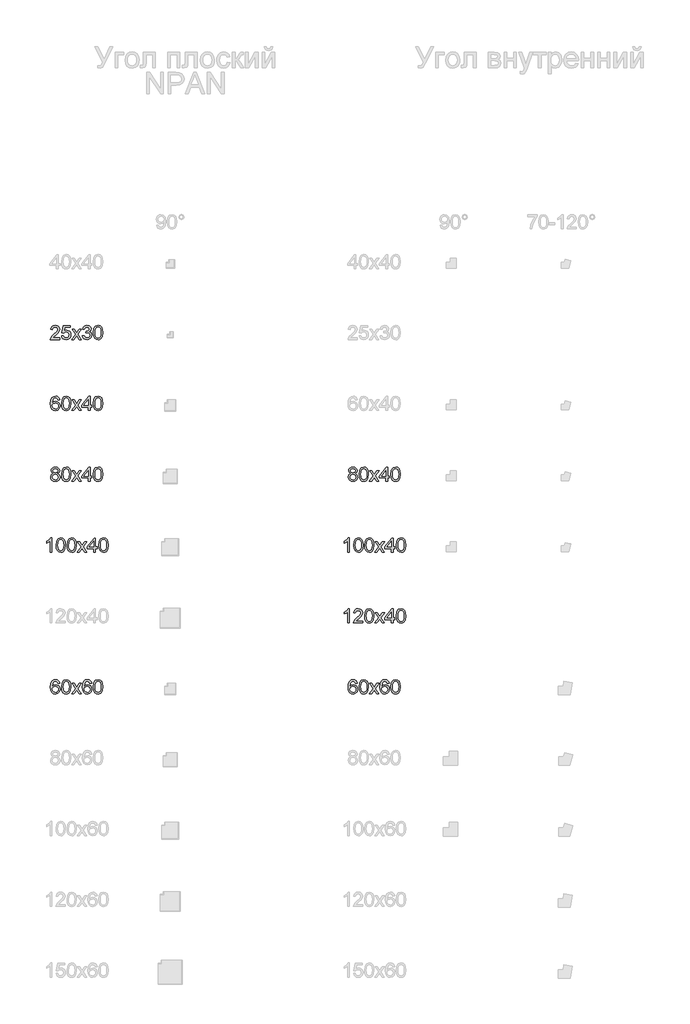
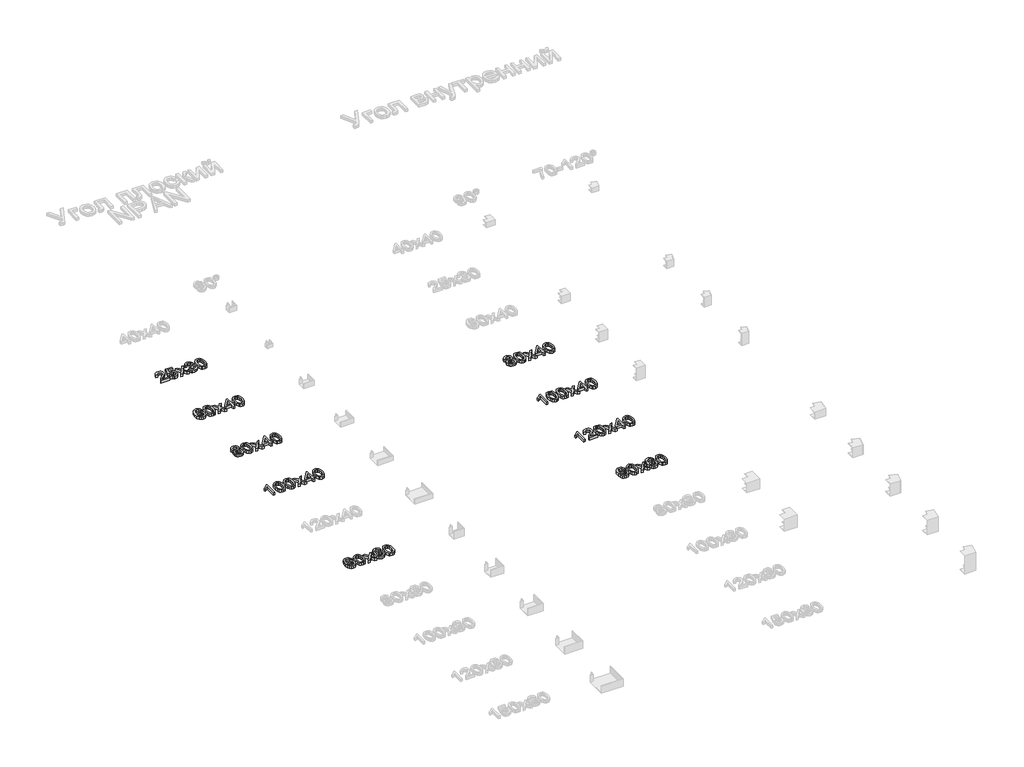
# One storey, part 20 of 28: 9 proxies.
"""IFC4 building model written with IfcOpenShell, lengths in millimetres."""

import ifcopenshell
import ifcopenshell.guid

model = None  # the IFC model being written
_history = None  # IfcOwnerHistory: only IFC2X3 demands one
_inside = {}  # id of a spatial element -> (the spatial element, [elements in it])
_under = {}  # id of a project, library or spatial element -> (it, [spatial elements below it])
_declared = {}  # id of a project -> (the project, [libraries it declares])
_typed = {}  # id of a type object -> (the type object, [elements of that type])
_made_of = {}  # id of a material, layer set ... -> (it, [elements and type objects made of it])


def new_model(schema):
    """Start an empty IFC model of exactly this schema.

    Asked for "IFC4X3", IfcOpenShell would pick the latest addendum, in which some entities
    have other attributes; the version numbers below select the first issue.
    IFC2X3 requires an IfcOwnerHistory on every rooted entity: one is made here for all.
    """
    global model, _history
    if schema == "IFC4X3":
        model = ifcopenshell.file(schema_version=(4, 3, 0, 0))
    else:
        model = ifcopenshell.file(schema=schema)
    _inside.clear()
    _under.clear()
    _declared.clear()
    _typed.clear()
    _made_of.clear()
    _history = None
    if model.schema == "IFC2X3":
        org = make("IfcOrganization", Name="unknown")
        user = make(
            "IfcPersonAndOrganization",
            ThePerson=make("IfcPerson", FamilyName="unknown"),
            TheOrganization=org,
        )
        app = make(
            "IfcApplication",
            ApplicationDeveloper=org,
            Version="unknown",
            ApplicationFullName="unknown",
            ApplicationIdentifier="unknown",
        )
        _history = make(
            "IfcOwnerHistory",
            OwningUser=user,
            OwningApplication=app,
            ChangeAction="ADDED",
            CreationDate=0,
        )
    return model


def make(cls, **values):
    """One entity of the class cls with the attributes given. An attribute that is None is left unset."""
    return model.create_entity(
        cls, **{name: value for name, value in values.items() if value is not None}
    )


def rooted(cls, **values):
    """An entity with a GlobalId (a new one), such as an element, a storey or a relation."""
    return make(cls, GlobalId=ifcopenshell.guid.new(), OwnerHistory=_history, **values)


def si_unit(unit_type, name, prefix=None):
    """IfcSIUnit, for example si_unit("LENGTHUNIT", "METRE", prefix="MILLI")."""
    return make("IfcSIUnit", UnitType=unit_type, Prefix=prefix, Name=name)


def assignment(units):
    """IfcUnitAssignment: the units of a project."""
    return None if units is None else make("IfcUnitAssignment", Units=units)


def point(xyz):
    """IfcCartesianPoint."""
    return None if xyz is None else make("IfcCartesianPoint", Coordinates=xyz)


def direction(xyz):
    """IfcDirection."""
    return None if xyz is None else make("IfcDirection", DirectionRatios=xyz)


def frame(location, z_axis=None, x_axis=None):
    """IfcAxis2Placement3D, a coordinate frame: its origin and axes. An axis left out is left unset."""
    return make(
        "IfcAxis2Placement3D",
        Location=point(location),
        Axis=direction(z_axis),
        RefDirection=direction(x_axis),
    )


def origin():
    """The frame at (0, 0, 0) with its axes left unset."""
    return frame((0.0, 0.0, 0.0))


def origin_with_axes():
    """The frame at (0, 0, 0) with the z axis (0, 0, 1) and the x axis (1, 0, 0) written out."""
    return frame((0.0, 0.0, 0.0), z_axis=(0.0, 0.0, 1.0), x_axis=(1.0, 0.0, 0.0))


def place(relative_to, where):
    """IfcLocalPlacement: puts the frame where relative to a parent placement (None: the world)."""
    return make(
        "IfcLocalPlacement", PlacementRelTo=relative_to, RelativePlacement=where
    )


def context(
    kind, dimensions, precision=None, world=None, true_north=None, identifier=None
):
    """IfcGeometricRepresentationContext, for example the 3D "Model" context."""
    return make(
        "IfcGeometricRepresentationContext",
        ContextIdentifier=identifier,
        ContextType=kind,
        CoordinateSpaceDimension=dimensions,
        Precision=precision,
        WorldCoordinateSystem=world,
        TrueNorth=true_north,
    )


def project(units=None, contexts=None):
    """IfcProject with its units and contexts."""
    return rooted(
        "IfcProject",
        Name="project",
        RepresentationContexts=contexts,
        UnitsInContext=assignment(units),
    )


def spatial(cls, under=None, at=None, **own):
    """A site, building, storey or space (cls), placed at a placement, below another one or the project."""
    s = rooted(cls, ObjectPlacement=at, **own)
    if under is not None:
        _under.setdefault(under.id(), (under, []))[1].append(s)
    return s


def polyline(points):
    """IfcPolyline through the points."""
    return make("IfcPolyline", Points=[point(p) for p in points])


def outline(outer, holes=None, kind="AREA"):
    """IfcArbitraryClosedProfileDef: a profile drawn as a closed curve; with holes, ...WithVoids."""
    if holes is None:
        return make("IfcArbitraryClosedProfileDef", ProfileType=kind, OuterCurve=outer)
    return make(
        "IfcArbitraryProfileDefWithVoids",
        ProfileType=kind,
        OuterCurve=outer,
        InnerCurves=holes,
    )


def extrude(swept, where, along, depth):
    """IfcExtrudedAreaSolid: the profile swept, set in the frame where, extruded along a direction by depth."""
    return make(
        "IfcExtrudedAreaSolid",
        SweptArea=swept,
        Position=where,
        ExtrudedDirection=direction(along),
        Depth=depth,
    )


def shape(context_of_items, identifier, shape_type, items):
    """IfcShapeRepresentation: the items that make up one representation, for example the "Body"."""
    return make(
        "IfcShapeRepresentation",
        ContextOfItems=context_of_items,
        RepresentationIdentifier=identifier,
        RepresentationType=shape_type,
        Items=items,
    )


def made_of(thing, what):
    """Note that an element or type object is made of a material, layer set ...; save() writes the relation."""
    if what is not None:
        _made_of.setdefault(what.id(), (what, []))[1].append(thing)
    return thing


def element(
    cls,
    number,
    at=None,
    inside=None,
    cuts=None,
    type_object=None,
    material=None,
    context=None,
    identifier="Body",
    shape_type=None,
    held_by="IfcProductDefinitionShape",
    body=None,
    shapes=None,
    **own,
):
    """One element of the class cls, such as IfcWall. Its Tag is "e" and its number.

    at: its placement. inside: the storey or other place that contains it. cuts: it is an
    opening in that element (IfcRelVoidsElement). A single representation is given by context,
    identifier, shape_type and body (its items); several are given by shapes. held_by: the class
    of the entity that holds the representations. save() writes the other relations.
    """
    e = rooted(cls, Tag="e%d" % number, ObjectPlacement=at, **own)
    if body is not None:
        shapes = [shape(context, identifier, shape_type, body)]
    if shapes is not None:
        e.Representation = make(held_by, Representations=shapes)
    if inside is not None:
        _inside.setdefault(inside.id(), (inside, []))[1].append(e)
    if cuts is not None:
        rooted(
            "IfcRelVoidsElement", RelatingBuildingElement=cuts, RelatedOpeningElement=e
        )
    if type_object is not None:
        _typed.setdefault(type_object.id(), (type_object, []))[1].append(e)
    return made_of(e, material)


def aggregate(whole, parts):
    """IfcRelAggregates: a whole, such as a stair, and the parts it consists of."""
    return rooted("IfcRelAggregates", RelatingObject=whole, RelatedObjects=parts)


def save(model, path):
    """Write the relations noted so far, then the file.

    IfcRelAggregates (storeys below a building ...), IfcRelContainedInSpatialStructure (elements
    in a storey), IfcRelDefinesByType, IfcRelAssociatesMaterial and IfcRelDeclares: one each for
    every whole, place, type object, material and project.
    """
    for whole, parts in _under.values():
        aggregate(whole, parts)
    for where, things in _inside.values():
        rooted(
            "IfcRelContainedInSpatialStructure",
            RelatedElements=things,
            RelatingStructure=where,
        )
    for kind, things in _typed.values():
        rooted("IfcRelDefinesByType", RelatedObjects=things, RelatingType=kind)
    for what, things in _made_of.values():
        rooted("IfcRelAssociatesMaterial", RelatedObjects=things, RelatingMaterial=what)
    for by, libraries in _declared.values():
        rooted("IfcRelDeclares", RelatingContext=by, RelatedDefinitions=libraries)
    model.write(path)


model = new_model("IFC4")

# Units and contexts
model_context = context("Model", 3, world=origin())
ifc_project = project(units=[si_unit("LENGTHUNIT", "METRE", prefix="MILLI")], contexts=[model_context])

# Site, building, storey
site = spatial("IfcSite", under=ifc_project)
building = spatial("IfcBuilding", under=site)
storey = spatial("IfcBuildingStorey", under=building, Name="Этаж 01", Elevation=0.0)

# Proxies
placement = place(None, origin())
element("IfcBuildingElementProxy", 1, Name="100 мм Arial", ObjectType="100 мм Arial", at=placement, inside=storey, context=model_context, shape_type="SweptSolid", body=[
    extrude(outline(polyline([(13023.2543603, 2549.221783), (13023.2543603, 2536.6647442), (12957.3299068, 2536.6647442), (12958.6788074, 2545.3222338), (12966.3062275, 2558.6518248), (12982.0270514, 2573.2076891), (13003.7075636, 2594.1279118), (13009.1276917, 2608.3526823), (13004.014132, 2619.8673888), (12990.6600155, 2624.5640156), (12976.7418134, 2619.9777534), (12971.4565754, 2607.2980873), (12958.8995366, 2608.8677171), (12961.9437601, 2621.0139543), (12968.5257822, 2629.8860418), (12978.3022462, 2635.3123012), (12990.9297957, 2637.1210543), (13003.6493157, 2635.1099661), (13013.4073856, 2629.0767014), (13019.6153943, 2620.0635925), (13021.6847305, 2609.1129718), (13019.452913, 2597.2058579), (13012.0339595, 2584.8940738), (12994.0445299, 2567.6894591), (12979.5990302, 2555.610667), (12973.9336475, 2549.221783), (13023.2543603, 2549.221783)])), origin_with_axes(), (0.0, 0.0, 1.0), 20.0),
    extrude(outline(polyline([(13035.8113991, 2563.3484516), (13048.3684379, 2564.9180814), (13054.6960082, 2551.9808979), (13067.8171327, 2547.6521531), (13076.8179788, 2549.1574036), (13083.5624821, 2553.6731551), (13087.7747309, 2560.6782414), (13089.1788139, 2569.6514964), (13083.9181013, 2584.56298), (13077.3115538, 2588.6648642), (13068.0133364, 2590.032159), (13056.9891393, 2587.8493925), (13049.9380677, 2582.1840097), (13037.3810289, 2583.7536396), (13048.3684379, 2635.5514245), (13097.0269631, 2635.5514245), (13097.0269631, 2622.9943857), (13058.5219809, 2622.9943857), (13053.1509038, 2595.3296597), (13062.1210931, 2600.7743132), (13071.5204781, 2602.5891977), (13083.2528481, 2600.3389862), (13092.9925239, 2593.5883516), (13099.5500204, 2583.2999185), (13101.7358526, 2570.4363114), (13099.767684, 2557.8792726), (13093.8631779, 2547.1371183), (13082.5569379, 2538.1056153), (13067.7680817, 2535.0951144), (13055.4348378, 2537.0295605), (13045.6093229, 2542.832899), (13038.8740167, 2551.8306794), (13035.8113991, 2563.3484516)])), origin_with_axes(), (0.0, 0.0, 1.0), 20.0),
    extrude(outline(polyline([(13108.014372, 2536.6647442), (13134.8452322, 2573.7472493), (13109.5840019, 2610.437347), (13124.6916891, 2610.437347), (13136.8808459, 2592.7790112), (13142.5707541, 2584.4403526), (13147.5003728, 2591.2584323), (13161.3817868, 2610.437347), (13176.489474, 2610.437347), (13149.9529195, 2573.7472493), (13175.5084554, 2536.6647442), (13160.4007681, 2536.6647442), (13145.0233007, 2558.9583931), (13142.2028721, 2563.0296205), (13123.1220593, 2536.6647442), (13108.014372, 2536.6647442)])), origin_with_axes(), (0.0, 0.0, 1.0), 20.0),
    extrude(outline(polyline([(13183.3566046, 2563.3484516), (13195.9136434, 2564.9180814), (13202.8420876, 2551.6988551), (13215.8037966, 2547.6521531), (13224.4122353, 2549.0439733), (13231.0586367, 2553.219434), (13236.7240194, 2567.0027461), (13231.1076876, 2579.9889805), (13216.8338662, 2585.1270657), (13208.0292238, 2583.7536396), (13209.4271753, 2596.3106784), (13211.4382636, 2596.1635256), (13225.6875595, 2599.7687691), (13230.4332373, 2604.3427686), (13232.0151299, 2610.8542799), (13227.4288676, 2620.6767292), (13215.6075929, 2624.5640156), (13203.6391653, 2620.639941), (13197.4832732, 2608.8677171), (13184.9262345, 2610.437347), (13188.6234485, 2621.7129301), (13195.2024049, 2630.1312964), (13204.203251, 2635.3736149), (13215.1661345, 2637.1210543), (13230.3106099, 2633.6752263), (13240.9056114, 2624.2574473), (13244.5721686, 2611.5900439), (13241.0895524, 2600.0140238), (13230.7888565, 2591.6998907), (13244.4740668, 2583.1159775), (13249.2810582, 2566.7820169), (13246.8775625, 2554.5438092), (13239.6670754, 2544.3166897), (13228.7838997, 2537.4005082), (13215.3623382, 2535.0951144), (13203.2222324, 2537.063283), (13193.3384694, 2542.967789), (13186.4652075, 2551.999292), (13183.3566046, 2563.3484516)])), origin_with_axes(), (0.0, 0.0, 1.0), 20.0),
    extrude(outline(polyline([(13260.2684671, 2586.0835589), (13263.9595498, 2614.986821), (13274.9224332, 2631.6518754), (13293.2306938, 2637.1210543), (13307.8969227, 2633.8836928), (13318.0259403, 2624.5517528), (13323.9120522, 2609.6893202), (13326.1929206, 2586.0835589), (13322.5386261, 2557.3029241), (13311.6125309, 2540.6010815), (13303.3811712, 2536.4716062), (13293.2306938, 2535.0951144), (13280.1831458, 2537.4863473), (13270.2748573, 2544.6600462), (13262.7700646, 2561.650063), (13260.2684671, 2586.0835589)]), holes=[polyline([(13272.8255058, 2586.1080844), (13274.2970338, 2566.3558869), (13278.7116178, 2554.9239539), (13285.2844428, 2549.4701033), (13293.2306938, 2547.6521531), (13301.1769449, 2549.4762347), (13307.7497699, 2554.9484794), (13312.1643539, 2566.3865437), (13313.6358818, 2586.1080844), (13312.2134048, 2605.4157577), (13307.9459737, 2616.9365955), (13301.3854114, 2622.6571606), (13293.0835411, 2624.5640156), (13285.2231291, 2622.8840211), (13278.9078215, 2617.8440378), (13274.3460848, 2605.6058301), (13272.8255058, 2586.1080844)])]), origin_with_axes(), (0.0, 0.0, 1.0), 20.0),
])
element("IfcBuildingElementProxy", 2, Name="100 мм Arial", ObjectType="100 мм Arial", at=placement, inside=storey, context=model_context, shape_type="SweptSolid", body=[
    extrude(outline(polyline([(13023.2543603, 2110.437347), (13010.6973216, 2108.8677171), (13005.9393811, 2119.3400912), (12993.3578168, 2124.5640156), (12982.0270514, 2121.5228578), (12973.4554009, 2110.1062532), (12969.8869456, 2087.7267651), (12980.9601936, 2097.7454181), (12994.682192, 2101.0195679), (13006.2827376, 2098.7816191), (13016.0193477, 2092.0677727), (13022.6228296, 2081.8099964), (13024.8239902, 2068.9402579), (13020.6791864, 2051.6130159), (13009.2748445, 2039.3502828), (12992.8182566, 2035.0951144), (12978.5720263, 2037.915543), (12967.2259325, 2046.3768289), (12959.8039132, 2061.3128379), (12957.3299068, 2083.5574359), (12960.076759, 2108.5672802), (12968.3173157, 2125.6676616), (12979.5683734, 2134.2577062), (12994.1426318, 2137.1210543), (13005.1606975, 2135.3490894), (13013.983734, 2130.0331946), (13020.1641516, 2121.5903028), (13023.2543603, 2110.437347)]), holes=[polyline([(12969.8869456, 2069.1364616), (12972.7932133, 2058.2594173), (12980.5187352, 2050.3622172), (12991.8372379, 2047.6521531), (13000.1237799, 2049.0562361), (13006.6383569, 2053.2684849), (13010.8598028, 2059.8903608), (13012.2669514, 2068.523325), (13010.8781969, 2076.8098669), (13006.7119333, 2083.1282402), (13000.0869917, 2087.1289569), (12991.3222031, 2088.4625291), (12976.1286767, 2083.1282402), (12971.4473784, 2076.9631511), (12969.8869456, 2069.1364616)])]), origin_with_axes(), (0.0, 0.0, 1.0), 20.0),
    extrude(outline(polyline([(13035.8113991, 2086.0835589), (13039.5024818, 2114.986821), (13050.4653652, 2131.6518754), (13068.7736259, 2137.1210543), (13083.4398547, 2133.8836928), (13093.5688723, 2124.5517528), (13099.4549843, 2109.6893202), (13101.7358526, 2086.0835589), (13098.0815581, 2057.3029241), (13087.1554629, 2040.6010815), (13078.9241032, 2036.4716062), (13068.7736259, 2035.0951144), (13055.7260778, 2037.4863473), (13045.8177894, 2044.6600462), (13038.3129967, 2061.650063), (13035.8113991, 2086.0835589)]), holes=[polyline([(13048.3684379, 2086.1080844), (13049.8399658, 2066.3558869), (13054.2545498, 2054.9239539), (13060.8273748, 2049.4701033), (13068.7736259, 2047.6521531), (13076.719877, 2049.4762347), (13083.2927019, 2054.9484794), (13087.7072859, 2066.3865437), (13089.1788139, 2086.1080844), (13087.7563368, 2105.4157577), (13083.4889057, 2116.9365955), (13076.9283434, 2122.6571606), (13068.6264731, 2124.5640156), (13060.7660611, 2122.8840211), (13054.4507535, 2117.8440378), (13049.8890168, 2105.6058301), (13048.3684379, 2086.1080844)])]), origin_with_axes(), (0.0, 0.0, 1.0), 20.0),
    extrude(outline(polyline([(13108.014372, 2036.6647442), (13134.8452322, 2073.7472493), (13109.5840019, 2110.437347), (13124.6916891, 2110.437347), (13136.8808459, 2092.7790112), (13142.5707541, 2084.4403526), (13147.5003728, 2091.2584323), (13161.3817868, 2110.437347), (13176.489474, 2110.437347), (13149.9529195, 2073.7472493), (13175.5084554, 2036.6647442), (13160.4007681, 2036.6647442), (13145.0233007, 2058.9583931), (13142.2028721, 2063.0296205), (13123.1220593, 2036.6647442), (13108.014372, 2036.6647442)])), origin_with_axes(), (0.0, 0.0, 1.0), 20.0),
    extrude(outline(polyline([(13224.1669806, 2036.6647442), (13224.1669806, 2060.2091919), (13178.6477151, 2060.2091919), (13178.6477151, 2072.7662307), (13227.3062403, 2135.5514245), (13236.7240194, 2135.5514245), (13236.7240194, 2072.7662307), (13249.2810582, 2072.7662307), (13249.2810582, 2060.2091919), (13236.7240194, 2060.2091919), (13236.7240194, 2036.6647442), (13224.1669806, 2036.6647442)]), holes=[polyline([(13224.1669806, 2072.7662307), (13224.1669806, 2111.5655184), (13194.0987589, 2072.7662307), (13224.1669806, 2072.7662307)])]), origin_with_axes(), (0.0, 0.0, 1.0), 20.0),
    extrude(outline(polyline([(13260.2684671, 2086.0835589), (13263.9595498, 2114.986821), (13274.9224332, 2131.6518754), (13293.2306938, 2137.1210543), (13307.8969227, 2133.8836928), (13318.0259403, 2124.5517528), (13323.9120522, 2109.6893202), (13326.1929206, 2086.0835589), (13322.5386261, 2057.3029241), (13311.6125309, 2040.6010815), (13303.3811712, 2036.4716062), (13293.2306938, 2035.0951144), (13280.1831458, 2037.4863473), (13270.2748573, 2044.6600462), (13262.7700646, 2061.650063), (13260.2684671, 2086.0835589)]), holes=[polyline([(13272.8255058, 2086.1080844), (13274.2970338, 2066.3558869), (13278.7116178, 2054.9239539), (13285.2844428, 2049.4701033), (13293.2306938, 2047.6521531), (13301.1769449, 2049.4762347), (13307.7497699, 2054.9484794), (13312.1643539, 2066.3865437), (13313.6358818, 2086.1080844), (13312.2134048, 2105.4157577), (13307.9459737, 2116.9365955), (13301.3854114, 2122.6571606), (13293.0835411, 2124.5640156), (13285.2231291, 2122.8840211), (13278.9078215, 2117.8440378), (13274.3460848, 2105.6058301), (13272.8255058, 2086.1080844)])]), origin_with_axes(), (0.0, 0.0, 1.0), 20.0),
])
element("IfcBuildingElementProxy", 3, Name="100 мм Arial", ObjectType="100 мм Arial", at=placement, inside=storey, context=model_context, shape_type="SweptSolid", body=[
    extrude(outline(polyline([(12977.1955345, 1591.9941963), (12965.7544045, 1599.7932946), (12962.0387963, 1611.9334004), (12964.0621473, 1621.7497183), (12970.1322002, 1629.8615163), (12979.5683734, 1635.3061698), (12991.6900851, 1637.1210543), (13003.8853733, 1635.2632503), (13013.4441738, 1629.689838), (13019.6245913, 1621.4492814), (13021.6847305, 1611.5900439), (13018.0181733, 1599.7565064), (13006.8958743, 1591.9941963), (13020.2499907, 1582.1472215), (13024.8239902, 1565.8991001), (13022.5553845, 1553.8938843), (13015.7495676, 1543.9733332), (13005.2404053, 1537.3146691), (12991.8617634, 1535.0951144), (12978.4831215, 1537.3238661), (12967.9739592, 1544.0101214), (12961.1681423, 1554.0257087), (12958.8995366, 1566.2424566), (12963.6574771, 1582.8707228), (12977.1955345, 1591.9941963)]), holes=[polyline([(12974.5958351, 1611.5655184), (12979.0472072, 1601.7062809), (12992.0089162, 1597.8803082), (13004.7131078, 1601.6817555), (13009.1276917, 1611.0014327), (13004.565955, 1620.6522037), (12991.8617634, 1624.5640156), (12979.1207836, 1620.7380428), (12974.5958351, 1611.5655184)]), polyline([(12971.4565754, 1566.683915), (12973.5535028, 1557.2293477), (12980.9724563, 1550.1537507), (12991.9598653, 1547.6521531), (13000.5069903, 1548.9673313), (13006.9203997, 1552.9128657), (13012.2669514, 1566.2915075), (13006.7487215, 1579.9276668), (13000.1881592, 1583.9743688), (12991.5429323, 1585.3232694), (12983.115369, 1583.9927629), (12976.7663389, 1580.0012432), (12971.4565754, 1566.683915)])]), origin_with_axes(), (0.0, 0.0, 1.0), 20.0),
    extrude(outline(polyline([(13035.8113991, 1586.0835589), (13039.5024818, 1614.986821), (13050.4653652, 1631.6518754), (13068.7736259, 1637.1210543), (13083.4398547, 1633.8836928), (13093.5688723, 1624.5517528), (13099.4549843, 1609.6893202), (13101.7358526, 1586.0835589), (13098.0815581, 1557.3029241), (13087.1554629, 1540.6010815), (13078.9241032, 1536.4716062), (13068.7736259, 1535.0951144), (13055.7260778, 1537.4863473), (13045.8177894, 1544.6600462), (13038.3129967, 1561.650063), (13035.8113991, 1586.0835589)]), holes=[polyline([(13048.3684379, 1586.1080844), (13049.8399658, 1566.3558869), (13054.2545498, 1554.9239539), (13060.8273748, 1549.4701033), (13068.7736259, 1547.6521531), (13076.719877, 1549.4762347), (13083.2927019, 1554.9484794), (13087.7072859, 1566.3865437), (13089.1788139, 1586.1080844), (13087.7563368, 1605.4157577), (13083.4889057, 1616.9365955), (13076.9283434, 1622.6571606), (13068.6264731, 1624.5640156), (13060.7660611, 1622.8840211), (13054.4507535, 1617.8440378), (13049.8890168, 1605.6058301), (13048.3684379, 1586.1080844)])]), origin_with_axes(), (0.0, 0.0, 1.0), 20.0),
    extrude(outline(polyline([(13108.014372, 1536.6647442), (13134.8452322, 1573.7472493), (13109.5840019, 1610.437347), (13124.6916891, 1610.437347), (13136.8808459, 1592.7790112), (13142.5707541, 1584.4403526), (13147.5003728, 1591.2584323), (13161.3817868, 1610.437347), (13176.489474, 1610.437347), (13149.9529195, 1573.7472493), (13175.5084554, 1536.6647442), (13160.4007681, 1536.6647442), (13145.0233007, 1558.9583931), (13142.2028721, 1563.0296205), (13123.1220593, 1536.6647442), (13108.014372, 1536.6647442)])), origin_with_axes(), (0.0, 0.0, 1.0), 20.0),
    extrude(outline(polyline([(13224.1669806, 1536.6647442), (13224.1669806, 1560.2091919), (13178.6477151, 1560.2091919), (13178.6477151, 1572.7662307), (13227.3062403, 1635.5514245), (13236.7240194, 1635.5514245), (13236.7240194, 1572.7662307), (13249.2810582, 1572.7662307), (13249.2810582, 1560.2091919), (13236.7240194, 1560.2091919), (13236.7240194, 1536.6647442), (13224.1669806, 1536.6647442)]), holes=[polyline([(13224.1669806, 1572.7662307), (13224.1669806, 1611.5655184), (13194.0987589, 1572.7662307), (13224.1669806, 1572.7662307)])]), origin_with_axes(), (0.0, 0.0, 1.0), 20.0),
    extrude(outline(polyline([(13260.2684671, 1586.0835589), (13263.9595498, 1614.986821), (13274.9224332, 1631.6518754), (13293.2306938, 1637.1210543), (13307.8969227, 1633.8836928), (13318.0259403, 1624.5517528), (13323.9120522, 1609.6893202), (13326.1929206, 1586.0835589), (13322.5386261, 1557.3029241), (13311.6125309, 1540.6010815), (13303.3811712, 1536.4716062), (13293.2306938, 1535.0951144), (13280.1831458, 1537.4863473), (13270.2748573, 1544.6600462), (13262.7700646, 1561.650063), (13260.2684671, 1586.0835589)]), holes=[polyline([(13272.8255058, 1586.1080844), (13274.2970338, 1566.3558869), (13278.7116178, 1554.9239539), (13285.2844428, 1549.4701033), (13293.2306938, 1547.6521531), (13301.1769449, 1549.4762347), (13307.7497699, 1554.9484794), (13312.1643539, 1566.3865437), (13313.6358818, 1586.1080844), (13312.2134048, 1605.4157577), (13307.9459737, 1616.9365955), (13301.3854114, 1622.6571606), (13293.0835411, 1624.5640156), (13285.2231291, 1622.8840211), (13278.9078215, 1617.8440378), (13274.3460848, 1605.6058301), (13272.8255058, 1586.1080844)])]), origin_with_axes(), (0.0, 0.0, 1.0), 20.0),
])
element("IfcBuildingElementProxy", 4, Name="100 мм Arial", ObjectType="100 мм Arial", at=placement, inside=storey, context=model_context, shape_type="SweptSolid", body=[
    extrude(outline(polyline([(12967.5325008, 1036.6647442), (12954.975462, 1036.6647442), (12954.975462, 1114.9500328), (12943.0806108, 1106.4764842), (12929.8613845, 1100.1366511), (12929.8613845, 1112.0069768), (12948.267747, 1123.7546752), (12959.4390969, 1137.1210543), (12967.5325008, 1137.1210543), (12967.5325008, 1036.6647442)])), origin_with_axes(), (0.0, 0.0, 1.0), 20.0),
    extrude(outline(polyline([(12997.3554679, 1086.0835589), (13001.0465505, 1114.986821), (13012.009434, 1131.6518754), (13030.3176946, 1137.1210543), (13044.9839235, 1133.8836928), (13055.1129411, 1124.5517528), (13060.999053, 1109.6893202), (13063.2799214, 1086.0835589), (13059.6256269, 1057.3029241), (13048.6995317, 1040.6010815), (13040.468172, 1036.4716062), (13030.3176946, 1035.0951144), (13017.2701465, 1037.4863473), (13007.3618581, 1044.6600462), (12999.8570654, 1061.650063), (12997.3554679, 1086.0835589)]), holes=[polyline([(13009.9125066, 1086.1080844), (13011.3840346, 1066.3558869), (13015.7986186, 1054.9239539), (13022.3714435, 1049.4701033), (13030.3176946, 1047.6521531), (13038.2639457, 1049.4762347), (13044.8367707, 1054.9484794), (13049.2513546, 1066.3865437), (13050.7228826, 1086.1080844), (13049.3004056, 1105.4157577), (13045.0329744, 1116.9365955), (13038.4724122, 1122.6571606), (13030.1705418, 1124.5640156), (13022.3101299, 1122.8840211), (13015.9948223, 1117.8440378), (13011.4330855, 1105.6058301), (13009.9125066, 1086.1080844)])]), origin_with_axes(), (0.0, 0.0, 1.0), 20.0),
    extrude(outline(polyline([(13074.2673303, 1086.0835589), (13077.958413, 1114.986821), (13088.9212965, 1131.6518754), (13107.2295571, 1137.1210543), (13121.895786, 1133.8836928), (13132.0248036, 1124.5517528), (13137.9109155, 1109.6893202), (13140.1917839, 1086.0835589), (13136.5374894, 1057.3029241), (13125.6113941, 1040.6010815), (13117.3800345, 1036.4716062), (13107.2295571, 1035.0951144), (13094.182009, 1037.4863473), (13084.2737206, 1044.6600462), (13076.7689279, 1061.650063), (13074.2673303, 1086.0835589)]), holes=[polyline([(13086.8243691, 1086.1080844), (13088.2958971, 1066.3558869), (13092.710481, 1054.9239539), (13099.283306, 1049.4701033), (13107.2295571, 1047.6521531), (13115.1758082, 1049.4762347), (13121.7486332, 1054.9484794), (13126.1632171, 1066.3865437), (13127.6347451, 1086.1080844), (13126.212268, 1105.4157577), (13121.9448369, 1116.9365955), (13115.3842746, 1122.6571606), (13107.0824043, 1124.5640156), (13099.2219923, 1122.8840211), (13092.9066847, 1117.8440378), (13088.344948, 1105.6058301), (13086.8243691, 1086.1080844)])]), origin_with_axes(), (0.0, 0.0, 1.0), 20.0),
    extrude(outline(polyline([(13146.4703032, 1036.6647442), (13173.3011634, 1073.7472493), (13148.0399331, 1110.437347), (13163.1476204, 1110.437347), (13175.3367771, 1092.7790112), (13181.0266853, 1084.4403526), (13185.9563041, 1091.2584323), (13199.837718, 1110.437347), (13214.9454053, 1110.437347), (13188.4088507, 1073.7472493), (13213.9643866, 1036.6647442), (13198.8566994, 1036.6647442), (13183.479232, 1058.9583931), (13180.6588033, 1063.0296205), (13161.5779905, 1036.6647442), (13146.4703032, 1036.6647442)])), origin_with_axes(), (0.0, 0.0, 1.0), 20.0),
    extrude(outline(polyline([(13262.6229119, 1036.6647442), (13262.6229119, 1060.2091919), (13217.1036463, 1060.2091919), (13217.1036463, 1072.7662307), (13265.7621715, 1135.5514245), (13275.1799506, 1135.5514245), (13275.1799506, 1072.7662307), (13287.7369894, 1072.7662307), (13287.7369894, 1060.2091919), (13275.1799506, 1060.2091919), (13275.1799506, 1036.6647442), (13262.6229119, 1036.6647442)]), holes=[polyline([(13262.6229119, 1072.7662307), (13262.6229119, 1111.5655184), (13232.5546901, 1072.7662307), (13262.6229119, 1072.7662307)])]), origin_with_axes(), (0.0, 0.0, 1.0), 20.0),
    extrude(outline(polyline([(13298.7243983, 1086.0835589), (13302.415481, 1114.986821), (13313.3783645, 1131.6518754), (13331.6866251, 1137.1210543), (13346.352854, 1133.8836928), (13356.4818716, 1124.5517528), (13362.3679835, 1109.6893202), (13364.6488518, 1086.0835589), (13360.9945574, 1057.3029241), (13350.0684621, 1040.6010815), (13341.8371025, 1036.4716062), (13331.6866251, 1035.0951144), (13318.639077, 1037.4863473), (13308.7307886, 1044.6600462), (13301.2259959, 1061.650063), (13298.7243983, 1086.0835589)]), holes=[polyline([(13311.2814371, 1086.1080844), (13312.7529651, 1066.3558869), (13317.167549, 1054.9239539), (13323.740374, 1049.4701033), (13331.6866251, 1047.6521531), (13339.6328762, 1049.4762347), (13346.2057012, 1054.9484794), (13350.6202851, 1066.3865437), (13352.0918131, 1086.1080844), (13350.669336, 1105.4157577), (13346.4019049, 1116.9365955), (13339.8413426, 1122.6571606), (13331.5394723, 1124.5640156), (13323.6790603, 1122.8840211), (13317.3637527, 1117.8440378), (13312.802016, 1105.6058301), (13311.2814371, 1086.1080844)])]), origin_with_axes(), (0.0, 0.0, 1.0), 20.0),
])
element("IfcBuildingElementProxy", 5, Name="100 мм Arial", ObjectType="100 мм Arial", at=placement, inside=storey, context=model_context, shape_type="SweptSolid", body=[
    extrude(outline(polyline([(13023.2543603, 110.437347), (13010.6973216, 108.8677171), (13005.9393811, 119.3400912), (12993.3578168, 124.5640156), (12982.0270514, 121.5228578), (12973.4554009, 110.1062532), (12969.8869456, 87.7267651), (12980.9601936, 97.7454181), (12994.682192, 101.0195679), (13006.2827376, 98.7816191), (13016.0193477, 92.0677727), (13022.6228296, 81.8099964), (13024.8239902, 68.9402579), (13020.6791864, 51.6130159), (13009.2748445, 39.3502828), (12992.8182566, 35.0951144), (12978.5720263, 37.915543), (12967.2259325, 46.3768289), (12959.8039132, 61.3128379), (12957.3299068, 83.5574359), (12960.076759, 108.5672802), (12968.3173157, 125.6676616), (12979.5683734, 134.2577062), (12994.1426318, 137.1210543), (13005.1606975, 135.3490894), (13013.983734, 130.0331946), (13020.1641516, 121.5903028), (13023.2543603, 110.437347)]), holes=[polyline([(12969.8869456, 69.1364616), (12972.7932133, 58.2594173), (12980.5187352, 50.3622172), (12991.8372379, 47.6521531), (13000.1237799, 49.0562361), (13006.6383569, 53.2684849), (13010.8598028, 59.8903608), (13012.2669514, 68.523325), (13010.8781969, 76.8098669), (13006.7119333, 83.1282402), (13000.0869917, 87.1289569), (12991.3222031, 88.4625291), (12976.1286767, 83.1282402), (12971.4473784, 76.9631511), (12969.8869456, 69.1364616)])]), origin_with_axes(), (0.0, 0.0, 1.0), 20.0),
    extrude(outline(polyline([(13035.8113991, 86.0835589), (13039.5024818, 114.986821), (13050.4653652, 131.6518754), (13068.7736259, 137.1210543), (13083.4398547, 133.8836928), (13093.5688723, 124.5517528), (13099.4549843, 109.6893202), (13101.7358526, 86.0835589), (13098.0815581, 57.3029241), (13087.1554629, 40.6010815), (13078.9241032, 36.4716062), (13068.7736259, 35.0951144), (13055.7260778, 37.4863473), (13045.8177894, 44.6600462), (13038.3129967, 61.650063), (13035.8113991, 86.0835589)]), holes=[polyline([(13048.3684379, 86.1080844), (13049.8399658, 66.3558869), (13054.2545498, 54.9239539), (13060.8273748, 49.4701033), (13068.7736259, 47.6521531), (13076.719877, 49.4762347), (13083.2927019, 54.9484794), (13087.7072859, 66.3865437), (13089.1788139, 86.1080844), (13087.7563368, 105.4157577), (13083.4889057, 116.9365955), (13076.9283434, 122.6571606), (13068.6264731, 124.5640156), (13060.7660611, 122.8840211), (13054.4507535, 117.8440378), (13049.8890168, 105.6058301), (13048.3684379, 86.1080844)])]), origin_with_axes(), (0.0, 0.0, 1.0), 20.0),
    extrude(outline(polyline([(13108.014372, 36.6647442), (13134.8452322, 73.7472493), (13109.5840019, 110.437347), (13124.6916891, 110.437347), (13136.8808459, 92.7790112), (13142.5707541, 84.4403526), (13147.5003728, 91.2584323), (13161.3817868, 110.437347), (13176.489474, 110.437347), (13149.9529195, 73.7472493), (13175.5084554, 36.6647442), (13160.4007681, 36.6647442), (13145.0233007, 58.9583931), (13142.2028721, 63.0296205), (13123.1220593, 36.6647442), (13108.014372, 36.6647442)])), origin_with_axes(), (0.0, 0.0, 1.0), 20.0),
    extrude(outline(polyline([(13247.7114283, 110.437347), (13235.1543895, 108.8677171), (13230.3964491, 119.3400912), (13217.8148848, 124.5640156), (13206.4841194, 121.5228578), (13197.9124689, 110.1062532), (13194.3440135, 87.7267651), (13205.4172616, 97.7454181), (13219.13926, 101.0195679), (13230.7398056, 98.7816191), (13240.4764157, 92.0677727), (13247.0798976, 81.8099964), (13249.2810582, 68.9402579), (13245.1362543, 51.6130159), (13233.7319125, 39.3502828), (13217.2753246, 35.0951144), (13203.0290943, 37.915543), (13191.6830004, 46.3768289), (13184.2609812, 61.3128379), (13181.7869748, 83.5574359), (13184.533827, 108.5672802), (13192.7743837, 125.6676616), (13204.0254414, 134.2577062), (13218.5996998, 137.1210543), (13229.6177655, 135.3490894), (13238.440802, 130.0331946), (13244.6212196, 121.5903028), (13247.7114283, 110.437347)]), holes=[polyline([(13194.3440135, 69.1364616), (13197.2502813, 58.2594173), (13204.9758032, 50.3622172), (13216.2943059, 47.6521531), (13224.5808479, 49.0562361), (13231.0954249, 53.2684849), (13235.3168708, 59.8903608), (13236.7240194, 68.523325), (13235.3352649, 76.8098669), (13231.1690013, 83.1282402), (13224.5440597, 87.1289569), (13215.7792711, 88.4625291), (13200.5857447, 83.1282402), (13195.9044463, 76.9631511), (13194.3440135, 69.1364616)])]), origin_with_axes(), (0.0, 0.0, 1.0), 20.0),
    extrude(outline(polyline([(13260.2684671, 86.0835589), (13263.9595498, 114.986821), (13274.9224332, 131.6518754), (13293.2306938, 137.1210543), (13307.8969227, 133.8836928), (13318.0259403, 124.5517528), (13323.9120522, 109.6893202), (13326.1929206, 86.0835589), (13322.5386261, 57.3029241), (13311.6125309, 40.6010815), (13303.3811712, 36.4716062), (13293.2306938, 35.0951144), (13280.1831458, 37.4863473), (13270.2748573, 44.6600462), (13262.7700646, 61.650063), (13260.2684671, 86.0835589)]), holes=[polyline([(13272.8255058, 86.1080844), (13274.2970338, 66.3558869), (13278.7116178, 54.9239539), (13285.2844428, 49.4701033), (13293.2306938, 47.6521531), (13301.1769449, 49.4762347), (13307.7497699, 54.9484794), (13312.1643539, 66.3865437), (13313.6358818, 86.1080844), (13312.2134048, 105.4157577), (13307.9459737, 116.9365955), (13301.3854114, 122.6571606), (13293.0835411, 124.5640156), (13285.2231291, 122.8840211), (13278.9078215, 117.8440378), (13274.3460848, 105.6058301), (13272.8255058, 86.1080844)])]), origin_with_axes(), (0.0, 0.0, 1.0), 20.0),
])
element("IfcBuildingElementProxy", 6, Name="100 мм Arial", ObjectType="100 мм Arial", at=placement, inside=storey, context=model_context, shape_type="SweptSolid", body=[
    extrude(outline(polyline([(15077.1955345, 1591.9941963), (15065.7544045, 1599.7932946), (15062.0387963, 1611.9334004), (15064.0621473, 1621.7497183), (15070.1322002, 1629.8615163), (15079.5683734, 1635.3061698), (15091.6900851, 1637.1210543), (15103.8853733, 1635.2632503), (15113.4441738, 1629.689838), (15119.6245913, 1621.4492814), (15121.6847305, 1611.5900439), (15118.0181733, 1599.7565064), (15106.8958743, 1591.9941963), (15120.2499907, 1582.1472215), (15124.8239902, 1565.8991001), (15122.5553845, 1553.8938843), (15115.7495676, 1543.9733332), (15105.2404053, 1537.3146691), (15091.8617634, 1535.0951144), (15078.4831215, 1537.3238661), (15067.9739592, 1544.0101214), (15061.1681423, 1554.0257087), (15058.8995366, 1566.2424566), (15063.6574771, 1582.8707228), (15077.1955345, 1591.9941963)]), holes=[polyline([(15074.5958351, 1611.5655184), (15079.0472072, 1601.7062809), (15092.0089162, 1597.8803082), (15104.7131078, 1601.6817555), (15109.1276917, 1611.0014327), (15104.565955, 1620.6522037), (15091.8617634, 1624.5640156), (15079.1207836, 1620.7380428), (15074.5958351, 1611.5655184)]), polyline([(15071.4565754, 1566.683915), (15073.5535028, 1557.2293477), (15080.9724563, 1550.1537507), (15091.9598653, 1547.6521531), (15100.5069903, 1548.9673313), (15106.9203997, 1552.9128657), (15112.2669514, 1566.2915075), (15106.7487215, 1579.9276668), (15100.1881592, 1583.9743688), (15091.5429323, 1585.3232694), (15083.115369, 1583.9927629), (15076.7663389, 1580.0012432), (15071.4565754, 1566.683915)])]), origin_with_axes(), (0.0, 0.0, 1.0), 20.0),
    extrude(outline(polyline([(15135.8113991, 1586.0835589), (15139.5024818, 1614.986821), (15150.4653652, 1631.6518754), (15168.7736259, 1637.1210543), (15183.4398547, 1633.8836928), (15193.5688723, 1624.5517528), (15199.4549843, 1609.6893202), (15201.7358526, 1586.0835589), (15198.0815581, 1557.3029241), (15187.1554629, 1540.6010815), (15178.9241032, 1536.4716062), (15168.7736259, 1535.0951144), (15155.7260778, 1537.4863473), (15145.8177894, 1544.6600462), (15138.3129967, 1561.650063), (15135.8113991, 1586.0835589)]), holes=[polyline([(15148.3684379, 1586.1080844), (15149.8399658, 1566.3558869), (15154.2545498, 1554.9239539), (15160.8273748, 1549.4701033), (15168.7736259, 1547.6521531), (15176.719877, 1549.4762347), (15183.2927019, 1554.9484794), (15187.7072859, 1566.3865437), (15189.1788139, 1586.1080844), (15187.7563368, 1605.4157577), (15183.4889057, 1616.9365955), (15176.9283434, 1622.6571606), (15168.6264731, 1624.5640156), (15160.7660611, 1622.8840211), (15154.4507535, 1617.8440378), (15149.8890168, 1605.6058301), (15148.3684379, 1586.1080844)])]), origin_with_axes(), (0.0, 0.0, 1.0), 20.0),
    extrude(outline(polyline([(15208.014372, 1536.6647442), (15234.8452322, 1573.7472493), (15209.5840019, 1610.437347), (15224.6916891, 1610.437347), (15236.8808459, 1592.7790112), (15242.5707541, 1584.4403526), (15247.5003728, 1591.2584323), (15261.3817868, 1610.437347), (15276.489474, 1610.437347), (15249.9529195, 1573.7472493), (15275.5084554, 1536.6647442), (15260.4007681, 1536.6647442), (15245.0233007, 1558.9583931), (15242.2028721, 1563.0296205), (15223.1220593, 1536.6647442), (15208.014372, 1536.6647442)])), origin_with_axes(), (0.0, 0.0, 1.0), 20.0),
    extrude(outline(polyline([(15324.1669806, 1536.6647442), (15324.1669806, 1560.2091919), (15278.6477151, 1560.2091919), (15278.6477151, 1572.7662307), (15327.3062403, 1635.5514245), (15336.7240194, 1635.5514245), (15336.7240194, 1572.7662307), (15349.2810582, 1572.7662307), (15349.2810582, 1560.2091919), (15336.7240194, 1560.2091919), (15336.7240194, 1536.6647442), (15324.1669806, 1536.6647442)]), holes=[polyline([(15324.1669806, 1572.7662307), (15324.1669806, 1611.5655184), (15294.0987589, 1572.7662307), (15324.1669806, 1572.7662307)])]), origin_with_axes(), (0.0, 0.0, 1.0), 20.0),
    extrude(outline(polyline([(15360.2684671, 1586.0835589), (15363.9595498, 1614.986821), (15374.9224332, 1631.6518754), (15393.2306938, 1637.1210543), (15407.8969227, 1633.8836928), (15418.0259403, 1624.5517528), (15423.9120522, 1609.6893202), (15426.1929206, 1586.0835589), (15422.5386261, 1557.3029241), (15411.6125309, 1540.6010815), (15403.3811712, 1536.4716062), (15393.2306938, 1535.0951144), (15380.1831458, 1537.4863473), (15370.2748573, 1544.6600462), (15362.7700646, 1561.650063), (15360.2684671, 1586.0835589)]), holes=[polyline([(15372.8255058, 1586.1080844), (15374.2970338, 1566.3558869), (15378.7116178, 1554.9239539), (15385.2844428, 1549.4701033), (15393.2306938, 1547.6521531), (15401.1769449, 1549.4762347), (15407.7497699, 1554.9484794), (15412.1643539, 1566.3865437), (15413.6358818, 1586.1080844), (15412.2134048, 1605.4157577), (15407.9459737, 1616.9365955), (15401.3854114, 1622.6571606), (15393.0835411, 1624.5640156), (15385.2231291, 1622.8840211), (15378.9078215, 1617.8440378), (15374.3460848, 1605.6058301), (15372.8255058, 1586.1080844)])]), origin_with_axes(), (0.0, 0.0, 1.0), 20.0),
])
element("IfcBuildingElementProxy", 7, Name="100 мм Arial", ObjectType="100 мм Arial", at=placement, inside=storey, context=model_context, shape_type="SweptSolid", body=[
    extrude(outline(polyline([(15067.5325008, 1036.6647442), (15054.975462, 1036.6647442), (15054.975462, 1114.9500328), (15043.0806108, 1106.4764842), (15029.8613845, 1100.1366511), (15029.8613845, 1112.0069768), (15048.267747, 1123.7546752), (15059.4390969, 1137.1210543), (15067.5325008, 1137.1210543), (15067.5325008, 1036.6647442)])), origin_with_axes(), (0.0, 0.0, 1.0), 20.0),
    extrude(outline(polyline([(15097.3554679, 1086.0835589), (15101.0465505, 1114.986821), (15112.009434, 1131.6518754), (15130.3176946, 1137.1210543), (15144.9839235, 1133.8836928), (15155.1129411, 1124.5517528), (15160.999053, 1109.6893202), (15163.2799214, 1086.0835589), (15159.6256269, 1057.3029241), (15148.6995317, 1040.6010815), (15140.468172, 1036.4716062), (15130.3176946, 1035.0951144), (15117.2701465, 1037.4863473), (15107.3618581, 1044.6600462), (15099.8570654, 1061.650063), (15097.3554679, 1086.0835589)]), holes=[polyline([(15109.9125066, 1086.1080844), (15111.3840346, 1066.3558869), (15115.7986186, 1054.9239539), (15122.3714435, 1049.4701033), (15130.3176946, 1047.6521531), (15138.2639457, 1049.4762347), (15144.8367707, 1054.9484794), (15149.2513546, 1066.3865437), (15150.7228826, 1086.1080844), (15149.3004056, 1105.4157577), (15145.0329744, 1116.9365955), (15138.4724122, 1122.6571606), (15130.1705418, 1124.5640156), (15122.3101299, 1122.8840211), (15115.9948223, 1117.8440378), (15111.4330855, 1105.6058301), (15109.9125066, 1086.1080844)])]), origin_with_axes(), (0.0, 0.0, 1.0), 20.0),
    extrude(outline(polyline([(15174.2673303, 1086.0835589), (15177.958413, 1114.986821), (15188.9212965, 1131.6518754), (15207.2295571, 1137.1210543), (15221.895786, 1133.8836928), (15232.0248036, 1124.5517528), (15237.9109155, 1109.6893202), (15240.1917839, 1086.0835589), (15236.5374894, 1057.3029241), (15225.6113941, 1040.6010815), (15217.3800345, 1036.4716062), (15207.2295571, 1035.0951144), (15194.182009, 1037.4863473), (15184.2737206, 1044.6600462), (15176.7689279, 1061.650063), (15174.2673303, 1086.0835589)]), holes=[polyline([(15186.8243691, 1086.1080844), (15188.2958971, 1066.3558869), (15192.710481, 1054.9239539), (15199.283306, 1049.4701033), (15207.2295571, 1047.6521531), (15215.1758082, 1049.4762347), (15221.7486332, 1054.9484794), (15226.1632171, 1066.3865437), (15227.6347451, 1086.1080844), (15226.212268, 1105.4157577), (15221.9448369, 1116.9365955), (15215.3842746, 1122.6571606), (15207.0824043, 1124.5640156), (15199.2219923, 1122.8840211), (15192.9066847, 1117.8440378), (15188.344948, 1105.6058301), (15186.8243691, 1086.1080844)])]), origin_with_axes(), (0.0, 0.0, 1.0), 20.0),
    extrude(outline(polyline([(15246.4703032, 1036.6647442), (15273.3011634, 1073.7472493), (15248.0399331, 1110.437347), (15263.1476204, 1110.437347), (15275.3367771, 1092.7790112), (15281.0266853, 1084.4403526), (15285.9563041, 1091.2584323), (15299.837718, 1110.437347), (15314.9454053, 1110.437347), (15288.4088507, 1073.7472493), (15313.9643866, 1036.6647442), (15298.8566994, 1036.6647442), (15283.479232, 1058.9583931), (15280.6588033, 1063.0296205), (15261.5779905, 1036.6647442), (15246.4703032, 1036.6647442)])), origin_with_axes(), (0.0, 0.0, 1.0), 20.0),
    extrude(outline(polyline([(15362.6229119, 1036.6647442), (15362.6229119, 1060.2091919), (15317.1036463, 1060.2091919), (15317.1036463, 1072.7662307), (15365.7621715, 1135.5514245), (15375.1799506, 1135.5514245), (15375.1799506, 1072.7662307), (15387.7369894, 1072.7662307), (15387.7369894, 1060.2091919), (15375.1799506, 1060.2091919), (15375.1799506, 1036.6647442), (15362.6229119, 1036.6647442)]), holes=[polyline([(15362.6229119, 1072.7662307), (15362.6229119, 1111.5655184), (15332.5546901, 1072.7662307), (15362.6229119, 1072.7662307)])]), origin_with_axes(), (0.0, 0.0, 1.0), 20.0),
    extrude(outline(polyline([(15398.7243983, 1086.0835589), (15402.415481, 1114.986821), (15413.3783645, 1131.6518754), (15431.6866251, 1137.1210543), (15446.352854, 1133.8836928), (15456.4818716, 1124.5517528), (15462.3679835, 1109.6893202), (15464.6488518, 1086.0835589), (15460.9945574, 1057.3029241), (15450.0684621, 1040.6010815), (15441.8371025, 1036.4716062), (15431.6866251, 1035.0951144), (15418.639077, 1037.4863473), (15408.7307886, 1044.6600462), (15401.2259959, 1061.650063), (15398.7243983, 1086.0835589)]), holes=[polyline([(15411.2814371, 1086.1080844), (15412.7529651, 1066.3558869), (15417.167549, 1054.9239539), (15423.740374, 1049.4701033), (15431.6866251, 1047.6521531), (15439.6328762, 1049.4762347), (15446.2057012, 1054.9484794), (15450.6202851, 1066.3865437), (15452.0918131, 1086.1080844), (15450.669336, 1105.4157577), (15446.4019049, 1116.9365955), (15439.8413426, 1122.6571606), (15431.5394723, 1124.5640156), (15423.6790603, 1122.8840211), (15417.3637527, 1117.8440378), (15412.802016, 1105.6058301), (15411.2814371, 1086.1080844)])]), origin_with_axes(), (0.0, 0.0, 1.0), 20.0),
])
element("IfcBuildingElementProxy", 8, Name="100 мм Arial", ObjectType="100 мм Arial", at=placement, inside=storey, context=model_context, shape_type="SweptSolid", body=[
    extrude(outline(polyline([(15067.5325008, 536.6647442), (15054.975462, 536.6647442), (15054.975462, 614.9500328), (15043.0806108, 606.4764842), (15029.8613845, 600.1366511), (15029.8613845, 612.0069768), (15048.267747, 623.7546752), (15059.4390969, 637.1210543), (15067.5325008, 637.1210543), (15067.5325008, 536.6647442)])), origin_with_axes(), (0.0, 0.0, 1.0), 20.0),
    extrude(outline(polyline([(15161.7102916, 549.221783), (15161.7102916, 536.6647442), (15095.785838, 536.6647442), (15097.1347387, 545.3222338), (15104.7621587, 558.6518248), (15120.4829826, 573.2076891), (15142.1634949, 594.1279118), (15147.5836229, 608.3526823), (15142.4700632, 619.8673888), (15129.1159468, 624.5640156), (15115.1977446, 619.9777534), (15109.9125066, 607.2980873), (15097.3554679, 608.8677171), (15100.3996914, 621.0139543), (15106.9817134, 629.8860418), (15116.7581774, 635.3123012), (15129.3857269, 637.1210543), (15142.1052469, 635.1099661), (15151.8633168, 629.0767014), (15158.0713255, 620.0635925), (15160.1406617, 609.1129718), (15157.9088443, 597.2058579), (15150.4898907, 584.8940738), (15132.5004611, 567.6894591), (15118.0549615, 555.610667), (15112.3895787, 549.221783), (15161.7102916, 549.221783)])), origin_with_axes(), (0.0, 0.0, 1.0), 20.0),
    extrude(outline(polyline([(15174.2673303, 586.0835589), (15177.958413, 614.986821), (15188.9212965, 631.6518754), (15207.2295571, 637.1210543), (15221.895786, 633.8836928), (15232.0248036, 624.5517528), (15237.9109155, 609.6893202), (15240.1917839, 586.0835589), (15236.5374894, 557.3029241), (15225.6113941, 540.6010815), (15217.3800345, 536.4716062), (15207.2295571, 535.0951144), (15194.182009, 537.4863473), (15184.2737206, 544.6600462), (15176.7689279, 561.650063), (15174.2673303, 586.0835589)]), holes=[polyline([(15186.8243691, 586.1080844), (15188.2958971, 566.3558869), (15192.710481, 554.9239539), (15199.283306, 549.4701033), (15207.2295571, 547.6521531), (15215.1758082, 549.4762347), (15221.7486332, 554.9484794), (15226.1632171, 566.3865437), (15227.6347451, 586.1080844), (15226.212268, 605.4157577), (15221.9448369, 616.9365955), (15215.3842746, 622.6571606), (15207.0824043, 624.5640156), (15199.2219923, 622.8840211), (15192.9066847, 617.8440378), (15188.344948, 605.6058301), (15186.8243691, 586.1080844)])]), origin_with_axes(), (0.0, 0.0, 1.0), 20.0),
    extrude(outline(polyline([(15246.4703032, 536.6647442), (15273.3011634, 573.7472493), (15248.0399331, 610.437347), (15263.1476204, 610.437347), (15275.3367771, 592.7790112), (15281.0266853, 584.4403526), (15285.9563041, 591.2584323), (15299.837718, 610.437347), (15314.9454053, 610.437347), (15288.4088507, 573.7472493), (15313.9643866, 536.6647442), (15298.8566994, 536.6647442), (15283.479232, 558.9583931), (15280.6588033, 563.0296205), (15261.5779905, 536.6647442), (15246.4703032, 536.6647442)])), origin_with_axes(), (0.0, 0.0, 1.0), 20.0),
    extrude(outline(polyline([(15362.6229119, 536.6647442), (15362.6229119, 560.2091919), (15317.1036463, 560.2091919), (15317.1036463, 572.7662307), (15365.7621715, 635.5514245), (15375.1799506, 635.5514245), (15375.1799506, 572.7662307), (15387.7369894, 572.7662307), (15387.7369894, 560.2091919), (15375.1799506, 560.2091919), (15375.1799506, 536.6647442), (15362.6229119, 536.6647442)]), holes=[polyline([(15362.6229119, 572.7662307), (15362.6229119, 611.5655184), (15332.5546901, 572.7662307), (15362.6229119, 572.7662307)])]), origin_with_axes(), (0.0, 0.0, 1.0), 20.0),
    extrude(outline(polyline([(15398.7243983, 586.0835589), (15402.415481, 614.986821), (15413.3783645, 631.6518754), (15431.6866251, 637.1210543), (15446.352854, 633.8836928), (15456.4818716, 624.5517528), (15462.3679835, 609.6893202), (15464.6488518, 586.0835589), (15460.9945574, 557.3029241), (15450.0684621, 540.6010815), (15441.8371025, 536.4716062), (15431.6866251, 535.0951144), (15418.639077, 537.4863473), (15408.7307886, 544.6600462), (15401.2259959, 561.650063), (15398.7243983, 586.0835589)]), holes=[polyline([(15411.2814371, 586.1080844), (15412.7529651, 566.3558869), (15417.167549, 554.9239539), (15423.740374, 549.4701033), (15431.6866251, 547.6521531), (15439.6328762, 549.4762347), (15446.2057012, 554.9484794), (15450.6202851, 566.3865437), (15452.0918131, 586.1080844), (15450.669336, 605.4157577), (15446.4019049, 616.9365955), (15439.8413426, 622.6571606), (15431.5394723, 624.5640156), (15423.6790603, 622.8840211), (15417.3637527, 617.8440378), (15412.802016, 605.6058301), (15411.2814371, 586.1080844)])]), origin_with_axes(), (0.0, 0.0, 1.0), 20.0),
])
element("IfcBuildingElementProxy", 9, Name="100 мм Arial", ObjectType="100 мм Arial", at=placement, inside=storey, context=model_context, shape_type="SweptSolid", body=[
    extrude(outline(polyline([(15123.2543603, 110.437347), (15110.6973216, 108.8677171), (15105.9393811, 119.3400912), (15093.3578168, 124.5640156), (15082.0270514, 121.5228578), (15073.4554009, 110.1062532), (15069.8869456, 87.7267651), (15080.9601936, 97.7454181), (15094.682192, 101.0195679), (15106.2827376, 98.7816191), (15116.0193477, 92.0677727), (15122.6228296, 81.8099964), (15124.8239902, 68.9402579), (15120.6791864, 51.6130159), (15109.2748445, 39.3502828), (15092.8182566, 35.0951144), (15078.5720263, 37.915543), (15067.2259325, 46.3768289), (15059.8039132, 61.3128379), (15057.3299068, 83.5574359), (15060.076759, 108.5672802), (15068.3173157, 125.6676616), (15079.5683734, 134.2577062), (15094.1426318, 137.1210543), (15105.1606975, 135.3490894), (15113.983734, 130.0331946), (15120.1641516, 121.5903028), (15123.2543603, 110.437347)]), holes=[polyline([(15069.8869456, 69.1364616), (15072.7932133, 58.2594173), (15080.5187352, 50.3622172), (15091.8372379, 47.6521531), (15100.1237799, 49.0562361), (15106.6383569, 53.2684849), (15110.8598028, 59.8903608), (15112.2669514, 68.523325), (15110.8781969, 76.8098669), (15106.7119333, 83.1282402), (15100.0869917, 87.1289569), (15091.3222031, 88.4625291), (15076.1286767, 83.1282402), (15071.4473784, 76.9631511), (15069.8869456, 69.1364616)])]), origin_with_axes(), (0.0, 0.0, 1.0), 20.0),
    extrude(outline(polyline([(15135.8113991, 86.0835589), (15139.5024818, 114.986821), (15150.4653652, 131.6518754), (15168.7736259, 137.1210543), (15183.4398547, 133.8836928), (15193.5688723, 124.5517528), (15199.4549843, 109.6893202), (15201.7358526, 86.0835589), (15198.0815581, 57.3029241), (15187.1554629, 40.6010815), (15178.9241032, 36.4716062), (15168.7736259, 35.0951144), (15155.7260778, 37.4863473), (15145.8177894, 44.6600462), (15138.3129967, 61.650063), (15135.8113991, 86.0835589)]), holes=[polyline([(15148.3684379, 86.1080844), (15149.8399658, 66.3558869), (15154.2545498, 54.9239539), (15160.8273748, 49.4701033), (15168.7736259, 47.6521531), (15176.719877, 49.4762347), (15183.2927019, 54.9484794), (15187.7072859, 66.3865437), (15189.1788139, 86.1080844), (15187.7563368, 105.4157577), (15183.4889057, 116.9365955), (15176.9283434, 122.6571606), (15168.6264731, 124.5640156), (15160.7660611, 122.8840211), (15154.4507535, 117.8440378), (15149.8890168, 105.6058301), (15148.3684379, 86.1080844)])]), origin_with_axes(), (0.0, 0.0, 1.0), 20.0),
    extrude(outline(polyline([(15208.014372, 36.6647442), (15234.8452322, 73.7472493), (15209.5840019, 110.437347), (15224.6916891, 110.437347), (15236.8808459, 92.7790112), (15242.5707541, 84.4403526), (15247.5003728, 91.2584323), (15261.3817868, 110.437347), (15276.489474, 110.437347), (15249.9529195, 73.7472493), (15275.5084554, 36.6647442), (15260.4007681, 36.6647442), (15245.0233007, 58.9583931), (15242.2028721, 63.0296205), (15223.1220593, 36.6647442), (15208.014372, 36.6647442)])), origin_with_axes(), (0.0, 0.0, 1.0), 20.0),
    extrude(outline(polyline([(15347.7114283, 110.437347), (15335.1543895, 108.8677171), (15330.3964491, 119.3400912), (15317.8148848, 124.5640156), (15306.4841194, 121.5228578), (15297.9124689, 110.1062532), (15294.3440135, 87.7267651), (15305.4172616, 97.7454181), (15319.13926, 101.0195679), (15330.7398056, 98.7816191), (15340.4764157, 92.0677727), (15347.0798976, 81.8099964), (15349.2810582, 68.9402579), (15345.1362543, 51.6130159), (15333.7319125, 39.3502828), (15317.2753246, 35.0951144), (15303.0290943, 37.915543), (15291.6830004, 46.3768289), (15284.2609812, 61.3128379), (15281.7869748, 83.5574359), (15284.533827, 108.5672802), (15292.7743837, 125.6676616), (15304.0254414, 134.2577062), (15318.5996998, 137.1210543), (15329.6177655, 135.3490894), (15338.440802, 130.0331946), (15344.6212196, 121.5903028), (15347.7114283, 110.437347)]), holes=[polyline([(15294.3440135, 69.1364616), (15297.2502813, 58.2594173), (15304.9758032, 50.3622172), (15316.2943059, 47.6521531), (15324.5808479, 49.0562361), (15331.0954249, 53.2684849), (15335.3168708, 59.8903608), (15336.7240194, 68.523325), (15335.3352649, 76.8098669), (15331.1690013, 83.1282402), (15324.5440597, 87.1289569), (15315.7792711, 88.4625291), (15300.5857447, 83.1282402), (15295.9044463, 76.9631511), (15294.3440135, 69.1364616)])]), origin_with_axes(), (0.0, 0.0, 1.0), 20.0),
    extrude(outline(polyline([(15360.2684671, 86.0835589), (15363.9595498, 114.986821), (15374.9224332, 131.6518754), (15393.2306938, 137.1210543), (15407.8969227, 133.8836928), (15418.0259403, 124.5517528), (15423.9120522, 109.6893202), (15426.1929206, 86.0835589), (15422.5386261, 57.3029241), (15411.6125309, 40.6010815), (15403.3811712, 36.4716062), (15393.2306938, 35.0951144), (15380.1831458, 37.4863473), (15370.2748573, 44.6600462), (15362.7700646, 61.650063), (15360.2684671, 86.0835589)]), holes=[polyline([(15372.8255058, 86.1080844), (15374.2970338, 66.3558869), (15378.7116178, 54.9239539), (15385.2844428, 49.4701033), (15393.2306938, 47.6521531), (15401.1769449, 49.4762347), (15407.7497699, 54.9484794), (15412.1643539, 66.3865437), (15413.6358818, 86.1080844), (15412.2134048, 105.4157577), (15407.9459737, 116.9365955), (15401.3854114, 122.6571606), (15393.0835411, 124.5640156), (15385.2231291, 122.8840211), (15378.9078215, 117.8440378), (15374.3460848, 105.6058301), (15372.8255058, 86.1080844)])]), origin_with_axes(), (0.0, 0.0, 1.0), 20.0),
])

save(model, "model.ifc")
